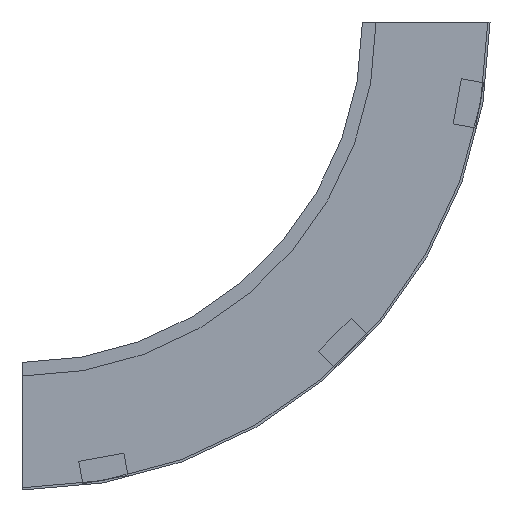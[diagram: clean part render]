
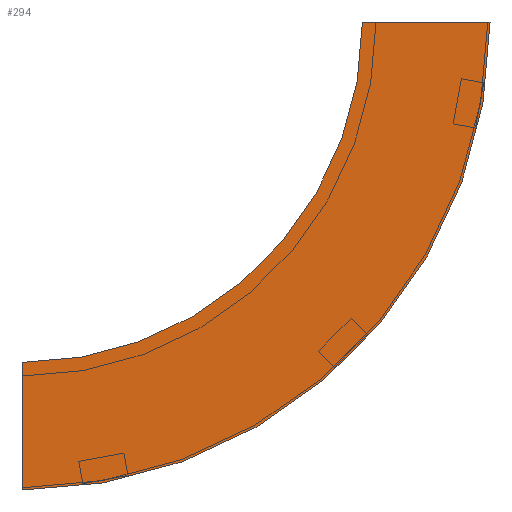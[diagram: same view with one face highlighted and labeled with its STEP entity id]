
A CAD part, left-side view. The second image highlights one B-rep face of the part: STEP entity #294.
In plain terms, the highlighted planar face has unit normal (-1, 0, 0) as drawn and (1, 0, 0) by its records, which use the part's own axes.
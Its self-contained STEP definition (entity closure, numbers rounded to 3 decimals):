
#36 = DIRECTION ( 'NONE',  ( 1., 0., 0. ) ) ;
#43 = VERTEX_POINT ( 'NONE', #210 ) ;
#62 = DIRECTION ( 'NONE',  ( 1., 0., 0. ) ) ;
#80 = VERTEX_POINT ( 'NONE', #556 ) ;
#92 = CARTESIAN_POINT ( 'NONE',  ( 0., 300., 0. ) ) ;
#110 = PLANE ( 'NONE',  #488 ) ;
#159 = DIRECTION ( 'NONE',  ( -1., 0., 0. ) ) ;
#162 = LINE ( 'NONE', #238, #514 ) ;
#189 = DIRECTION ( 'NONE',  ( 0., -1., 0. ) ) ;
#191 = VECTOR ( 'NONE', #541, 1000. ) ;
#194 = EDGE_CURVE ( 'NONE', #43, #538, #162, .T. ) ;
#200 = CARTESIAN_POINT ( 'NONE',  ( 0., -112.5, 0. ) ) ;
#210 = CARTESIAN_POINT ( 'NONE',  ( 0., 300., -412.5 ) ) ;
#220 = VERTEX_POINT ( 'NONE', #453 ) ;
#229 = CARTESIAN_POINT ( 'NONE',  ( 0., -112.5, 0. ) ) ;
#238 = CARTESIAN_POINT ( 'NONE',  ( 0., 300., -412.5 ) ) ;
#248 = CARTESIAN_POINT ( 'NONE',  ( 0., 300., 0. ) ) ;
#294 = ADVANCED_FACE ( 'NONE', ( #502 ), #110, .F. ) ;
#303 = EDGE_LOOP ( 'NONE', ( #441, #362, #494, #377 ) ) ;
#337 = CARTESIAN_POINT ( 'NONE',  ( 0., 300., -300. ) ) ;
#344 = DIRECTION ( 'NONE',  ( 0., -1., 0. ) ) ;
#362 = ORIENTED_EDGE ( 'NONE', *, *, #451, .F. ) ;
#373 = DIRECTION ( 'NONE',  ( 0., 0., 1. ) ) ;
#377 = ORIENTED_EDGE ( 'NONE', *, *, #194, .T. ) ;
#393 = AXIS2_PLACEMENT_3D ( 'NONE', #92, #36, #189 ) ;
#429 = EDGE_CURVE ( 'NONE', #80, #538, #526, .T. ) ;
#434 = DIRECTION ( 'NONE',  ( 0., 0., 1. ) ) ;
#441 = ORIENTED_EDGE ( 'NONE', *, *, #429, .F. ) ;
#451 = EDGE_CURVE ( 'NONE', #220, #80, #493, .T. ) ;
#453 = CARTESIAN_POINT ( 'NONE',  ( 0., -112.5, 0. ) ) ;
#488 = AXIS2_PLACEMENT_3D ( 'NONE', #200, #159, #434 ) ;
#493 = LINE ( 'NONE', #229, #191 ) ;
#494 = ORIENTED_EDGE ( 'NONE', *, *, #574, .T. ) ;
#499 = CIRCLE ( 'NONE', #580, 412.5 ) ;
#502 = FACE_OUTER_BOUND ( 'NONE', #303, .T. ) ;
#514 = VECTOR ( 'NONE', #373, 1000. ) ;
#526 = CIRCLE ( 'NONE', #393, 300. ) ;
#538 = VERTEX_POINT ( 'NONE', #337 ) ;
#541 = DIRECTION ( 'NONE',  ( 0., 1., 0. ) ) ;
#556 = CARTESIAN_POINT ( 'NONE',  ( 0., 0., 0. ) ) ;
#574 = EDGE_CURVE ( 'NONE', #220, #43, #499, .T. ) ;
#580 = AXIS2_PLACEMENT_3D ( 'NONE', #248, #62, #344 ) ;
